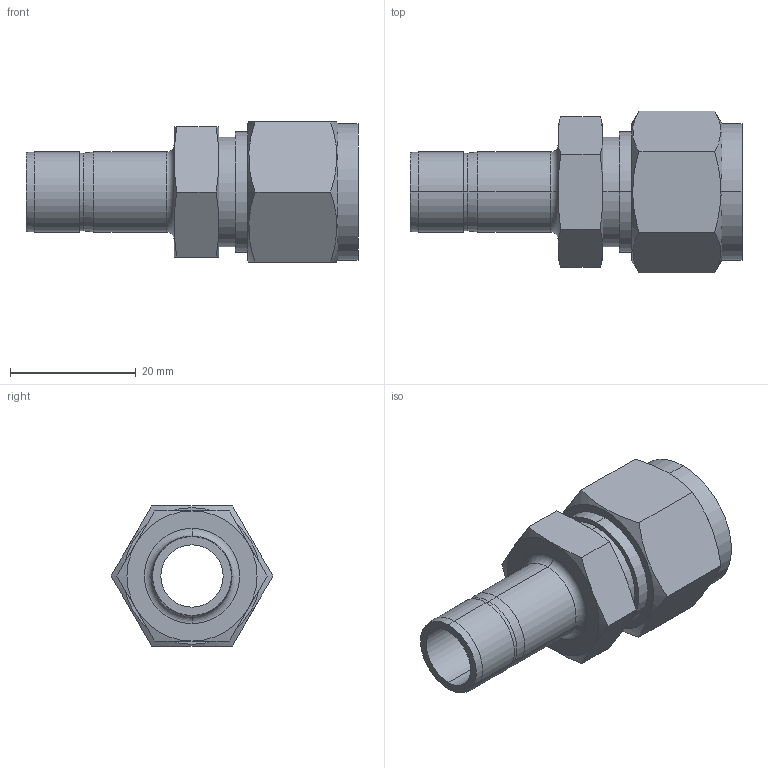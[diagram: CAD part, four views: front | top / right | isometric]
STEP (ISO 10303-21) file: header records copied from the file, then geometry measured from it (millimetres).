
FILE_DESCRIPTION (( 'STEP AP203' ), '1' );
FILE_NAME ('DRE08-08 SS.STEP', '2009-09-08T08:38:17', ( ' ' ), ( '' ), 'SwSTEP 2.0', 'SolidWorks 2008', '' );
FILE_SCHEMA (( 'CONFIG_CONTROL_DESIGN' ));
Length unit declared in the file: millimetre
Products named in the file (1): DRE08-08 SS
Bounding box: 52.7 x 25.67 x 22.23 mm (x, y, z)
Volume: 8824.4 mm3; surface area: 5738.5 mm2
Topology: 1 solids, 1 shells, 63 faces, 138 edges, 82 vertices
Faces by surface type: cone 24, plane 19, cylinder 18, torus 2
Entity records: 1965 total; most frequent: CARTESIAN_POINT 540, DIRECTION 282, ORIENTED_EDGE 276, EDGE_CURVE 138, AXIS2_PLACEMENT_3D 120, VERTEX_POINT 82, EDGE_LOOP 70, ADVANCED_FACE 63
